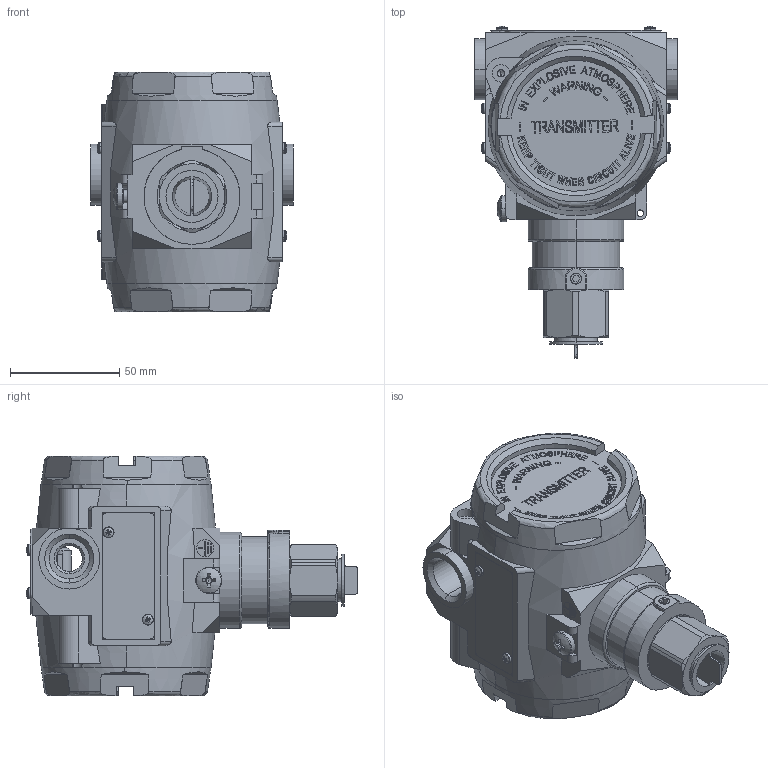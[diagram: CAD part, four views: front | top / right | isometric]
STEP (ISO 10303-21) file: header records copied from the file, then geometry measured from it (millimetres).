
FILE_DESCRIPTION((''),'2;1');
FILE_NAME('T_MODEL_NO_LCD','2022-12-14T10:33:06',('ebeloglazova'),(''),'CREO PARAMETRIC BY PTC INC, 2021184','CREO PARAMETRIC BY PTC INC, 2021184','');
FILE_SCHEMA(('CONFIG_CONTROL_DESIGN'));
Products named in the file (1): T_MODEL_NO_LCD
Bounding box: 93 x 152.21 x 110 mm (x, y, z)
Volume: 370349.1 mm3; surface area: 113108.6 mm2
Topology: 2 solids, 2 shells, 3035 faces, 8104 edges, 5253 vertices
Faces by surface type: plane 2104, extrusion 368, cylinder 309, cone 185, torus 47, sphere 13, bspline 5, revolution 4
Entity records: 109881 total; most frequent: CARTESIAN_POINT 35138, ORIENTED_EDGE 16124, DIRECTION 14099, EDGE_CURVE 8062, VECTOR 5897, LINE 5529, VERTEX_POINT 5253, AXIS2_PLACEMENT_3D 4099
